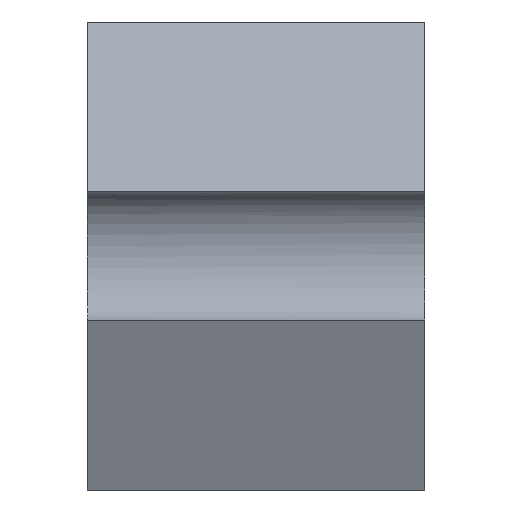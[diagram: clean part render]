
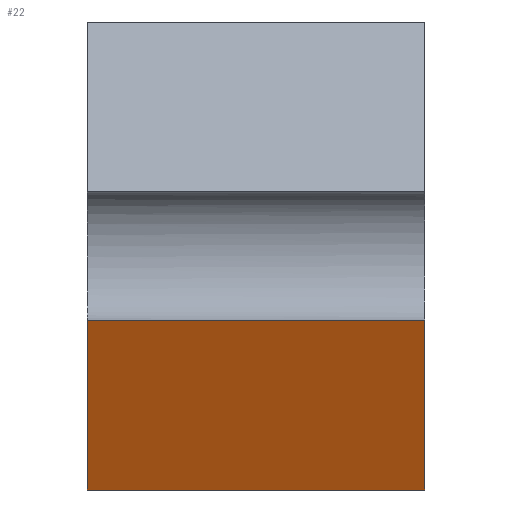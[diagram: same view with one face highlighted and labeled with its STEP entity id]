
A CAD part, front view. The second image highlights one B-rep face of the part: STEP entity #22.
In plain terms, the highlighted planar face has unit normal (0, -0.911, -0.413).
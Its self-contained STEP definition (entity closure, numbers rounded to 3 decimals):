
#22=ADVANCED_FACE('',(#31),#147,.T.);
#31=FACE_OUTER_BOUND('',#40,.T.);
#40=EDGE_LOOP('',(#76,#77,#78,#79));
#76=ORIENTED_EDGE('',*,*,#97,.T.);
#77=ORIENTED_EDGE('',*,*,#96,.F.);
#78=ORIENTED_EDGE('',*,*,#94,.T.);
#79=ORIENTED_EDGE('',*,*,#95,.F.);
#94=EDGE_CURVE('',#133,#132,#118,.T.);
#95=EDGE_CURVE('',#134,#132,#119,.T.);
#96=EDGE_CURVE('',#133,#135,#120,.T.);
#97=EDGE_CURVE('',#134,#135,#105,.T.);
#105=(
BOUNDED_CURVE()
B_SPLINE_CURVE(1,(#259,#260),.UNSPECIFIED.,.F.,.F.)
B_SPLINE_CURVE_WITH_KNOTS((2,2),(-975.203,-175.203),
 .UNSPECIFIED.)
CURVE()
GEOMETRIC_REPRESENTATION_ITEM()
RATIONAL_B_SPLINE_CURVE((1.,1.))
REPRESENTATION_ITEM('')
);
#118=B_SPLINE_CURVE_WITH_KNOTS('',1,(#253,#254),.UNSPECIFIED.,.F.,.F.,(2,
2),(-2874.328,-2074.328),.UNSPECIFIED.);
#119=B_SPLINE_CURVE_WITH_KNOTS('',1,(#255,#256),.UNSPECIFIED.,.F.,.F.,(2,
2),(-293.352,-86.572),.UNSPECIFIED.);
#120=B_SPLINE_CURVE_WITH_KNOTS('',1,(#257,#258),.UNSPECIFIED.,.F.,.F.,(2,
2),(86.572,293.352),.UNSPECIFIED.);
#132=VERTEX_POINT('',#225);
#133=VERTEX_POINT('',#226);
#134=VERTEX_POINT('',#227);
#135=VERTEX_POINT('',#228);
#147=PLANE('',#173);
#173=AXIS2_PLACEMENT_3D('',#217,#182,$);
#182=DIRECTION('',(0.,-0.911,-0.413));
#217=CARTESIAN_POINT('',(-363.495,16.662,0.012));
#225=CARTESIAN_POINT('',(28.116,16.662,0.012));
#226=CARTESIAN_POINT('',(-346.884,16.662,0.012));
#227=CARTESIAN_POINT('',(28.116,-68.703,188.349));
#228=CARTESIAN_POINT('',(-346.884,-68.703,188.349));
#253=CARTESIAN_POINT('',(-346.884,16.662,0.012));
#254=CARTESIAN_POINT('',(28.116,16.662,0.012));
#255=CARTESIAN_POINT('',(28.116,-68.703,188.349));
#256=CARTESIAN_POINT('',(28.116,16.662,0.012));
#257=CARTESIAN_POINT('',(-346.884,16.662,0.012));
#258=CARTESIAN_POINT('',(-346.884,-68.703,188.349));
#259=CARTESIAN_POINT('',(28.116,-68.703,188.349));
#260=CARTESIAN_POINT('',(-346.884,-68.703,188.349));
